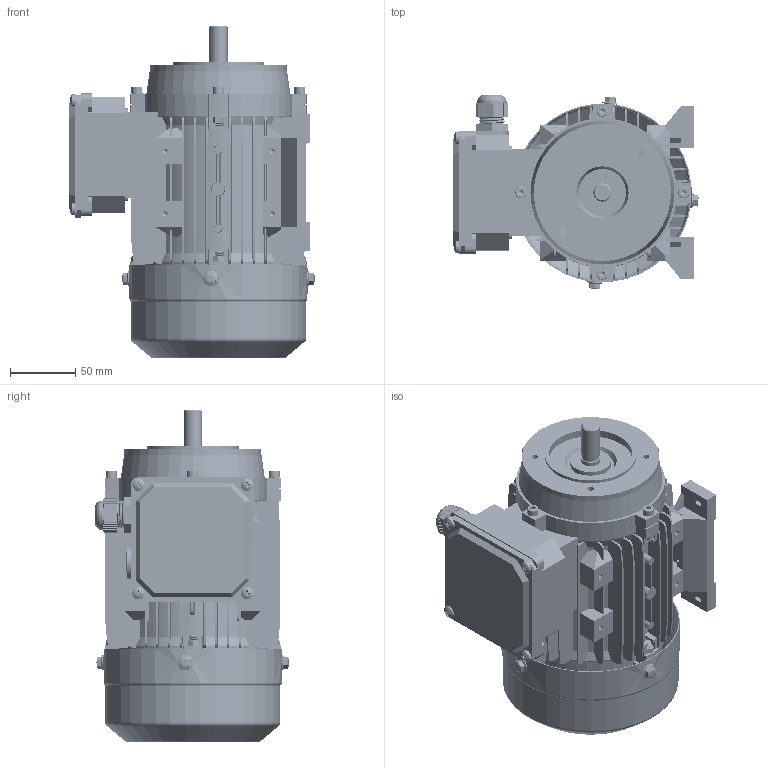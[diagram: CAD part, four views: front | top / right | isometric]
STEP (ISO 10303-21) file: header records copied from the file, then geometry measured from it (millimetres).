
FILE_DESCRIPTION (( 'STEP AP203' ), '1' );
FILE_NAME ('MS71L B34 3D蚾饜芞.STEP', '2024-06-01T08:48:18', ( 'User' ), ( 'China' ), 'SwSTEP 2.0', 'SolidWorks 2018', '' );
FILE_SCHEMA (( 'CONFIG_CONTROL_DESIGN' ));
Length unit declared in the file: millimetre
Products named in the file (20): MS71L  B34  3D蚾饜芞; hex nuts, style 1-grades ab gb_GB_FASTENER_NUT_SNAB1 M5-S; 8.043.07101MS71菁褐; hexagon socket head cap screws gb_GB_FASTENER_SCREWS_HSHCS M6X20-S; cross recessed pan head screws gb_GB_CROSS_SCREWS_TYPE1 M5X8-8  H type-C; spring lock washers--normal type gb_GB_FASTENER_WASHER_SW 6; 蹟杶郋M20X1.5; 8.306.07101MS71邧脯瑞欶; 蹟簸M20X1.5; hex flange bolts-heavy grade b gb_GB_FASTENER_BOLT_HFBB M5X10-C; 黑芛20X1.5; MS63-71諉盄碟裔; 蚐猾25X14X4; 8.034.07101MS71 L儂褲; MS63-71諉盄碟菁釱; hexagon socket head cap screws gb_GB_FASTENER_SCREWS_HSHCS M5X25-S; 8.013.07102MS71綴傷裔; 8.013.07104MS71B14傷裔; spring lock washers--normal type gb_GB_FASTENER_WASHER_SW 5; 8.200.07101MS71 L蛌粣
Assembly tree (52 placements, depth 2):
  MS71L  B34  3D蚾饜芞
    8.034.07101MS71 L儂褲
    8.013.07102MS71綴傷裔
    8.200.07101MS71 L蛌粣
    8.043.07101MS71菁褐  x2
    cross recessed pan head screws gb_GB_CROSS_SCREWS_TYPE1 M5X8-8  H type-C  x8
    蹟杶郋M20X1.5
    蹟簸M20X1.5
    黑芛20X1.5
    蚐猾25X14X4
    hexagon socket head cap screws gb_GB_FASTENER_SCREWS_HSHCS M5X25-S  x8
    spring lock washers--normal type gb_GB_FASTENER_WASHER_SW 5  x4
    hex nuts, style 1-grades ab gb_GB_FASTENER_NUT_SNAB1 M5-S  x7
    hexagon socket head cap screws gb_GB_FASTENER_SCREWS_HSHCS M6X20-S  x4
    spring lock washers--normal type gb_GB_FASTENER_WASHER_SW 6  x4
    8.306.07101MS71邧脯瑞欶
    hex flange bolts-heavy grade b gb_GB_FASTENER_BOLT_HFBB M5X10-C  x4
    MS63-71諉盄碟裔
    MS63-71諉盄碟菁釱
    8.013.07104MS71B14傷裔
Bounding box: 187.6 x 148.35 x 253.83 mm (x, y, z)
Volume: 676762.6 mm3; surface area: 499116.5 mm2
Topology: 52 solids, 59 shells, 7199 faces, 17100 edges, 10090 vertices
Faces by surface type: cone 2590, plane 2372, cylinder 1960, bspline 170, torus 91, sphere 16
Entity records: 133269 total; most frequent: CARTESIAN_POINT 43012, ORIENTED_EDGE 19092, DIRECTION 16897, EDGE_CURVE 9546, VERTEX_POINT 6116, LINE 5677, VECTOR 5677, AXIS2_PLACEMENT_3D 5610
